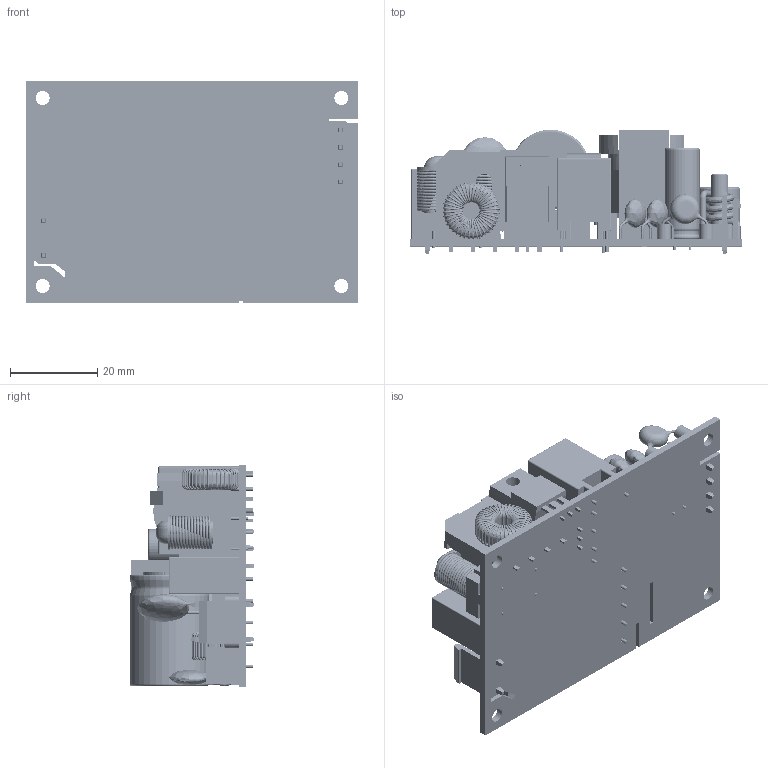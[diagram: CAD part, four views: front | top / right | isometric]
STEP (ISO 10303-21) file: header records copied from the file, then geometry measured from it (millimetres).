
FILE_DESCRIPTION (( 'STEP AP203' ), '1' );
FILE_NAME ('CFM130S(M)XXX ¦¨«~¹Ï-1130205.STEP', '2024-07-23T03:29:24', ( 'cincon' ), ( '' ), 'SwSTEP 2.0', 'SolidWorks 2020', '' );
FILE_SCHEMA (( 'CONFIG_CONTROL_DESIGN' ));
Length unit declared in the file: millimetre
Products named in the file (1): CFM130S(M)XXX 成品圖-1130205
Bounding box: 76.2 x 28.6 x 50.8 mm (x, y, z)
Volume: 38719.6 mm3; surface area: 32443.8 mm2
Topology: 6 solids, 8 shells, 2897 faces, 8852 edges, 5566 vertices
Faces by surface type: cylinder 1096, plane 777, bspline 553, torus 458, sphere 7, cone 6
Entity records: 135105 total; most frequent: CARTESIAN_POINT 62017, ORIENTED_EDGE 17650, DIRECTION 13607, EDGE_CURVE 8825, VERTEX_POINT 5566, AXIS2_PLACEMENT_3D 5261, EDGE_LOOP 3105, LINE 3085
